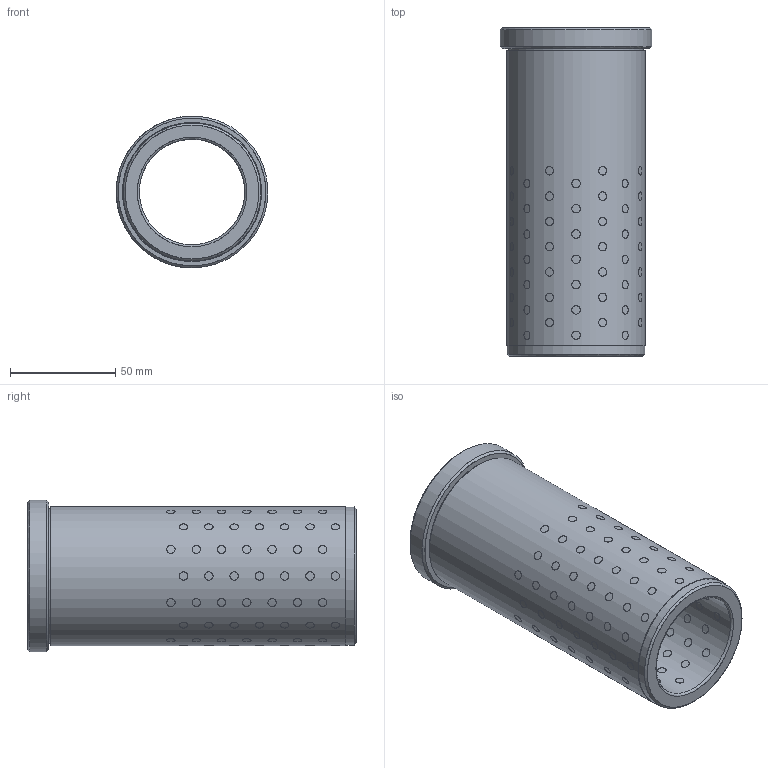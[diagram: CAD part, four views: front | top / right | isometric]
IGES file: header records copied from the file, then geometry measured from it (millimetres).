
Start section: Missler Software BP 521, 31674 Labege Cedex, France Tel   : +33 (0)5 61 00 03 00 Fax   : +33 (0)5 61 00 03 03 Email : sup.topsolid@topsolid.com
Global section: file name: D:\Cuma\D30.05\D30.05_50156.igs; native system: TopSolid v605250 Missler Software; preprocessor: IGES preprocessor v100000; date: 030120.205443; units: millimetre
Bounding box: 71.96 x 156 x 72 mm (x, y, z)
Surface area: 77232 mm2 (no closed solid volume)
Topology: 0 solids, 0 shells, 399 faces, 7268 edges, 7004 vertices
Faces by surface type: bspline 399
